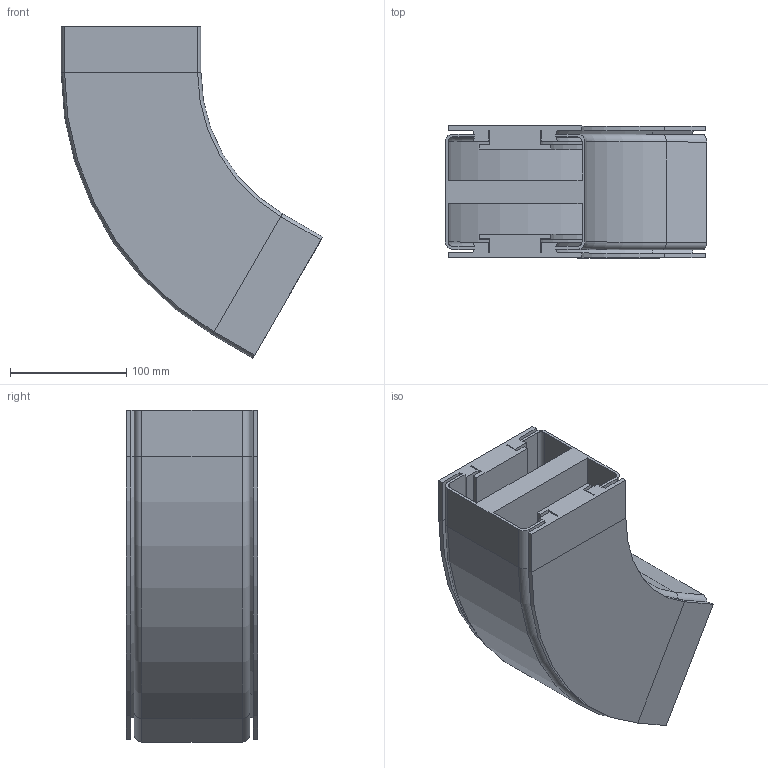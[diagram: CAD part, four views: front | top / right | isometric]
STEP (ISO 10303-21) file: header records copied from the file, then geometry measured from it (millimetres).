
FILE_DESCRIPTION (( 'STEP AP214' ), '1' );
FILE_NAME ('VC.120 Horizontale bochtsectie.R200 60.STEP', '2017-02-08T07:48:15', ( '' ), ( '' ), 'SwSTEP 2.0', 'SolidWorks 2016', '' );
FILE_SCHEMA (( 'AUTOMOTIVE_DESIGN' ));
Length unit declared in the file: millimetre
Products named in the file (1): VC.120 Horizontale bochtsectie.R200 60
Bounding box: 224.64 x 113 x 285.17 mm (x, y, z)
Volume: 1706573 mm3; surface area: 424448.1 mm2
Topology: 1 solids, 1 shells, 206 faces, 476 edges, 272 vertices
Faces by surface type: plane 152, cylinder 38, cone 8, torus 8
Entity records: 5674 total; most frequent: DIRECTION 990, CARTESIAN_POINT 955, ORIENTED_EDGE 952, EDGE_CURVE 476, VECTOR 376, LINE 376, AXIS2_PLACEMENT_3D 307, VERTEX_POINT 272
